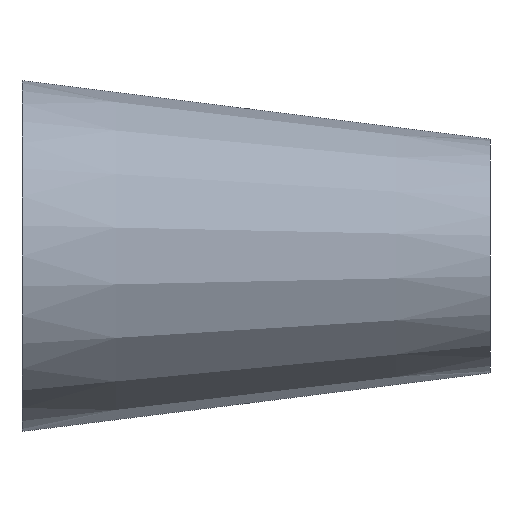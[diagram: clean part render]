
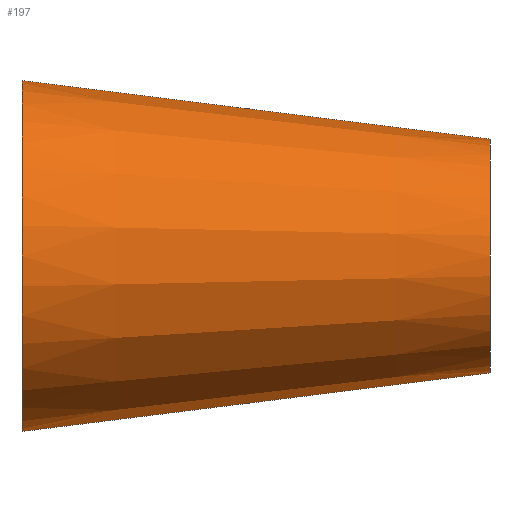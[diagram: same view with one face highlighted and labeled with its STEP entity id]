
A CAD part, front view. The second image highlights one B-rep face of the part: STEP entity #197.
In plain terms, the highlighted conical face has half-angle 7.125 degrees and reference radius 6.35 mm.
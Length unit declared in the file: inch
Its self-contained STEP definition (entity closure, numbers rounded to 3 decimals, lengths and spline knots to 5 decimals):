
#7 = VECTOR ( 'NONE', #97, 39.37008 ) ;
#9 = CARTESIAN_POINT ( 'NONE',  ( 1., 0., 0.25 ) ) ;
#20 = EDGE_CURVE ( 'NONE', #55, #214, #128, .T. ) ;
#22 = CONICAL_SURFACE ( 'NONE', #215, 0.25, 0.124 ) ;
#28 = CIRCLE ( 'NONE', #73, 0.375 ) ;
#38 = VERTEX_POINT ( 'NONE', #160 ) ;
#44 = DIRECTION ( 'NONE',  ( -0.992, 0., -0.124 ) ) ;
#45 = DIRECTION ( 'NONE',  ( -1., 0., 0. ) ) ;
#48 = CARTESIAN_POINT ( 'NONE',  ( 0., 0., -0.375 ) ) ;
#49 = CARTESIAN_POINT ( 'NONE',  ( 0., 0., 0.375 ) ) ;
#53 = VECTOR ( 'NONE', #44, 39.37008 ) ;
#55 = VERTEX_POINT ( 'NONE', #110 ) ;
#63 = EDGE_CURVE ( 'NONE', #173, #214, #28, .T. ) ;
#68 = FACE_OUTER_BOUND ( 'NONE', #77, .T. ) ;
#73 = AXIS2_PLACEMENT_3D ( 'NONE', #80, #45, #130 ) ;
#77 = EDGE_LOOP ( 'NONE', ( #179, #174, #121, #96 ) ) ;
#78 = CARTESIAN_POINT ( 'NONE',  ( 1., 0., -0.25 ) ) ;
#80 = CARTESIAN_POINT ( 'NONE',  ( 0., 0., 0. ) ) ;
#81 = EDGE_CURVE ( 'NONE', #38, #173, #114, .T. ) ;
#84 = DIRECTION ( 'NONE',  ( 0., 0., 1. ) ) ;
#92 = DIRECTION ( 'NONE',  ( -1., 0., 0. ) ) ;
#96 = ORIENTED_EDGE ( 'NONE', *, *, #63, .F. ) ;
#97 = DIRECTION ( 'NONE',  ( -0.992, 0., 0.124 ) ) ;
#110 = CARTESIAN_POINT ( 'NONE',  ( 1., 0., 0.25 ) ) ;
#111 = CARTESIAN_POINT ( 'NONE',  ( 1., 0., 0. ) ) ;
#114 = LINE ( 'NONE', #78, #53 ) ;
#121 = ORIENTED_EDGE ( 'NONE', *, *, #20, .T. ) ;
#128 = LINE ( 'NONE', #9, #7 ) ;
#130 = DIRECTION ( 'NONE',  ( 0., 0., 1. ) ) ;
#133 = AXIS2_PLACEMENT_3D ( 'NONE', #111, #92, #84 ) ;
#136 = DIRECTION ( 'NONE',  ( 0., 0., 1. ) ) ;
#146 = EDGE_CURVE ( 'NONE', #38, #55, #196, .T. ) ;
#160 = CARTESIAN_POINT ( 'NONE',  ( 1., 0., -0.25 ) ) ;
#173 = VERTEX_POINT ( 'NONE', #48 ) ;
#174 = ORIENTED_EDGE ( 'NONE', *, *, #146, .T. ) ;
#179 = ORIENTED_EDGE ( 'NONE', *, *, #81, .F. ) ;
#184 = CARTESIAN_POINT ( 'NONE',  ( 1., 0., 0. ) ) ;
#196 = CIRCLE ( 'NONE', #133, 0.25 ) ;
#197 = ADVANCED_FACE ( 'NONE', ( #68 ), #22, .T. ) ;
#214 = VERTEX_POINT ( 'NONE', #49 ) ;
#215 = AXIS2_PLACEMENT_3D ( 'NONE', #184, #221, #136 ) ;
#221 = DIRECTION ( 'NONE',  ( -1., 0., 0. ) ) ;
